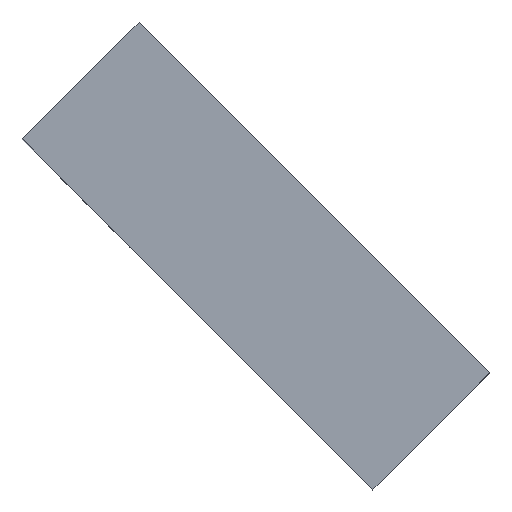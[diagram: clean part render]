
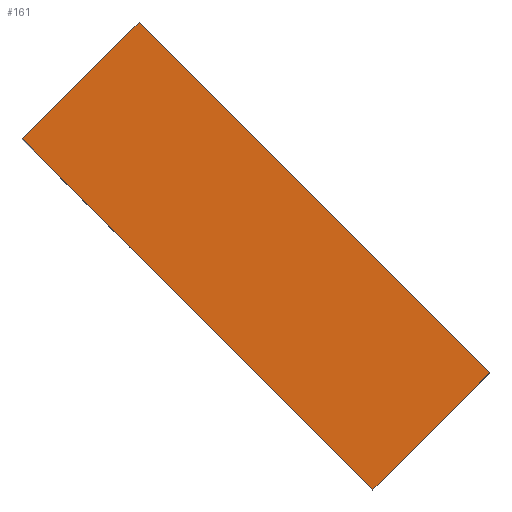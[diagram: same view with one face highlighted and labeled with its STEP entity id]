
A CAD part, top view. The second image highlights one B-rep face of the part: STEP entity #161.
In plain terms, the highlighted planar face has unit normal (0, 0, 1).
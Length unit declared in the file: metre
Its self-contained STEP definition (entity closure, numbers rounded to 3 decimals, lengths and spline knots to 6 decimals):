
#17=PLANE('',#179);
#25=LINE('',#249,#42);
#28=LINE('',#255,#45);
#31=LINE('',#261,#48);
#34=LINE('',#267,#51);
#42=VECTOR('',#205,1.);
#45=VECTOR('',#210,1.);
#48=VECTOR('',#215,1.);
#51=VECTOR('',#220,1.);
#87=ORIENTED_EDGE('',*,*,#114,.T.);
#88=ORIENTED_EDGE('',*,*,#108,.T.);
#89=ORIENTED_EDGE('',*,*,#105,.F.);
#90=ORIENTED_EDGE('',*,*,#111,.F.);
#105=EDGE_CURVE('',#124,#125,#25,.T.);
#108=EDGE_CURVE('',#126,#125,#28,.T.);
#111=EDGE_CURVE('',#128,#124,#31,.T.);
#114=EDGE_CURVE('',#128,#126,#34,.T.);
#124=VERTEX_POINT('',#250);
#125=VERTEX_POINT('',#251);
#126=VERTEX_POINT('',#256);
#128=VERTEX_POINT('',#262);
#141=EDGE_LOOP('',(#87,#88,#89,#90));
#150=FACE_BOUND('',#141,.T.);
#161=ADVANCED_FACE('',(#150),#17,.T.);
#179=AXIS2_PLACEMENT_3D('',#269,#222,#223);
#205=DIRECTION('',(0.707,0.707,0.));
#210=DIRECTION('',(-0.707,0.707,0.));
#215=DIRECTION('',(-0.707,0.707,0.));
#220=DIRECTION('',(0.707,0.707,0.));
#222=DIRECTION('',(0.,0.,1.));
#223=DIRECTION('',(1.,0.,0.));
#249=CARTESIAN_POINT('',(0.024624,-0.001724,-0.03));
#250=CARTESIAN_POINT('',(0.024624,-0.001724,-0.03));
#251=CARTESIAN_POINT('',(0.024978,-0.00137,-0.03));
#255=CARTESIAN_POINT('',(0.026039,-0.002431,-0.03));
#256=CARTESIAN_POINT('',(0.026039,-0.002431,-0.03));
#261=CARTESIAN_POINT('',(0.025685,-0.002784,-0.03));
#262=CARTESIAN_POINT('',(0.025685,-0.002784,-0.03));
#267=CARTESIAN_POINT('',(0.025685,-0.002784,-0.03));
#269=CARTESIAN_POINT('',(0.020691,-0.001237,-0.03));
